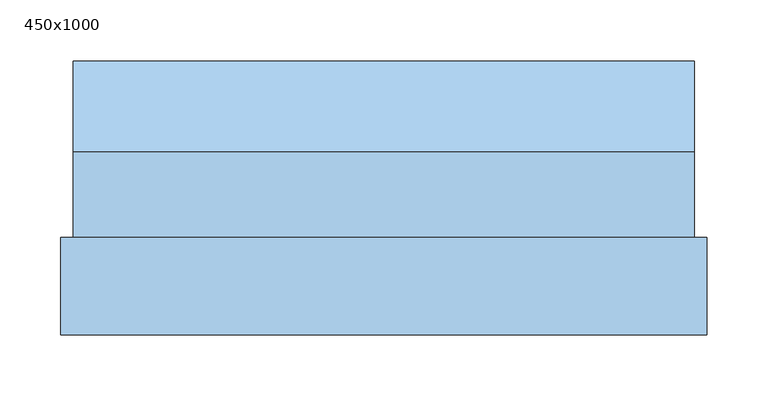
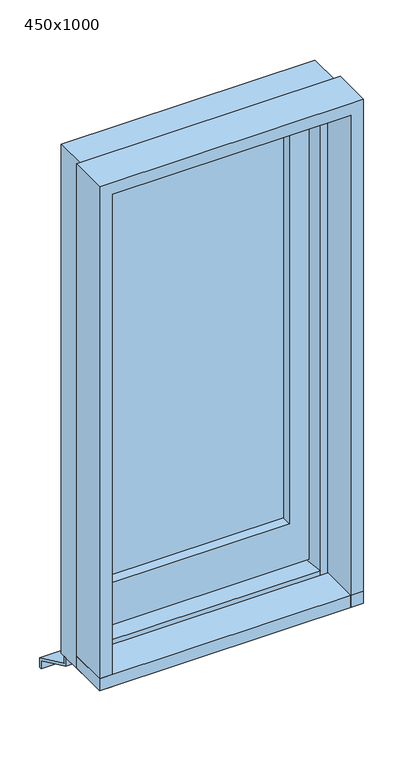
"""IFC4 building model written with IfcOpenShell, lengths in millimetres: window geometry, 鋼製_一般枠_嵌殺し : 450x1000."""

from ifc_helpers import new_model, si_unit, frame, origin, place, context, project, spatial, polyline, outline, extrude, source, transform, mapped, element, save


def window_450x1000_e0a5e2da(model_context):
    return source(origin(), model_context, "Body", "SweptSolid", [
        extrude(outline(polyline([(185.0, 29.0), (-185.0, 29.0), (-185.0, 34.0), (185.0, 34.0), (185.0, 29.0)])), frame((0.0, 0.0, 1290.0), z_axis=(0.0, 0.0, 1.0), x_axis=(1.0, 0.0, 0.0)), (0.0, 0.0, 1.0), 870.0),
        extrude(outline(polyline([(2200.0, 225.0), (2200.0, -225.0), (1200.0, -225.0), (1200.0, 225.0), (2200.0, 225.0)]), holes=[polyline([(2160.0, 185.0), (1290.0, 185.0), (1290.0, -185.0), (2160.0, -185.0), (2160.0, 185.0)])]), frame((0.0, 9.0, 0.0), z_axis=(0.0, 1.0, 0.0), x_axis=(0.0, 0.0, 1.0)), (0.0, 0.0, 1.0), 30.0),
        extrude(outline(polyline([(265.0, -110.0), (-265.0, -110.0), (-265.0, -30.0), (265.0, -30.0), (265.0, -110.0)])), frame((0.0, 0.0, 1165.0), z_axis=(0.0, 0.0, 1.0), x_axis=(1.0, 0.0, 0.0)), (0.0, 0.0, 1.0), 25.0),
        extrude(outline(polyline([(30.0, 1135.0), (115.0, 1095.0), (115.0, 1075.0), (110.0014518, 1075.0), (110.0014518, 1091.8262891), (25.0, 1131.8269723), (25.0, 1150.0), (30.0, 1150.0), (30.0, 1135.0)])), frame((-255.0, 0.0, 0.0), z_axis=(1.0, 0.0, 0.0), x_axis=(0.0, 1.0, 0.0)), (0.0, 0.0, 1.0), 510.0),
        extrude(outline(polyline([(1165.0, -265.0), (1165.0, -240.0), (2210.0, -240.0), (2210.0, 240.0), (1165.0, 240.0), (1165.0, 265.0), (2235.0, 265.0), (2235.0, -265.0), (1165.0, -265.0)])), frame((0.0, -110.0, 0.0), z_axis=(0.0, 1.0, 0.0), x_axis=(0.0, 0.0, 1.0)), (0.0, 0.0, 1.0), 80.0),
        extrude(outline(polyline([(1150.0, -255.0), (1150.0, -225.0), (2200.0, -225.0), (2200.0, 225.0), (1150.0, 225.0), (1150.0, 255.0), (2230.0, 255.0), (2230.0, -255.0), (1150.0, -255.0)])), frame((0.0, -30.0, 0.0), z_axis=(0.0, 1.0, 0.0), x_axis=(0.0, 0.0, 1.0)), (0.0, 0.0, 1.0), 70.0),
        extrude(outline(polyline([(-30.0, 1150.0), (-30.0, 1200.0), (40.0, 1190.6666667), (40.0, 1150.0), (-30.0, 1150.0)])), frame((-225.0, 0.0, 0.0), z_axis=(1.0, 0.0, 0.0), x_axis=(0.0, 1.0, 0.0)), (0.0, 0.0, 1.0), 450.0),
    ])


if __name__ == "__main__":
    model = new_model("IFC4")
    model_context = context("Model", 3, world=origin())
    ifc_project = project(units=[si_unit("LENGTHUNIT", "METRE", prefix="MILLI")], contexts=[model_context])
    site = spatial("IfcSite", under=ifc_project)
    building = spatial("IfcBuilding", under=site)
    placement = place(None, origin())
    window_450x1000_shape = window_450x1000_e0a5e2da(model_context)
    element("IfcWindow", 1, ObjectType="鋼製_一般枠_嵌殺し : 450x1000", at=placement, inside=building, context=model_context, shape_type="MappedRepresentation", body=[
        mapped(window_450x1000_shape, transform((0.0, 0.0, 0.0), x_axis=(1.0, 0.0, 0.0), y_axis=(0.0, 1.0, 0.0), z_axis=(0.0, 0.0, 1.0))),
    ])
    save(model, "model.ifc")
